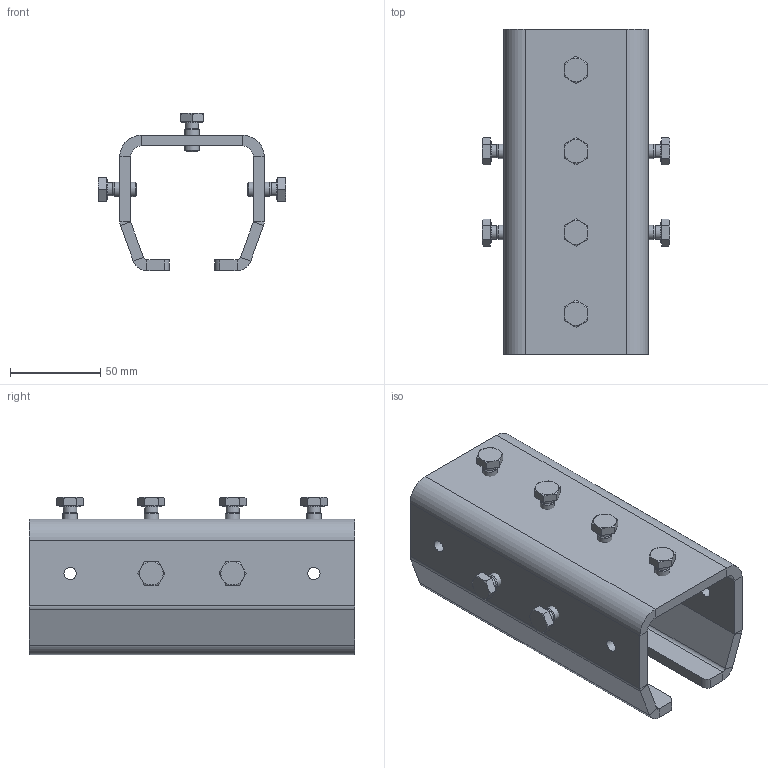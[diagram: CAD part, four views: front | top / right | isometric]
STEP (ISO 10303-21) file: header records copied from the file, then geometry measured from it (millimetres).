
FILE_DESCRIPTION(/* description */ ('Muffe Nr.3_lang '),/* implementation_level */ '2;1');
FILE_NAME(/* name */ 'Q:\sge-ma\Produktmanagement-STB\STB\Workspace\stp\010335130.stp',/* time_stamp */ '2015-03-10T13:19:18+01:00',/* author */ ('avschreier'),/* organization */ (''),/* preprocessor_version */ 'ST-DEVELOPER v15.6',/* originating_system */ 'Autodesk Inventor 2015',/* authorisation */ '');
FILE_SCHEMA (('CONFIG_CONTROL_DESIGN'));
Length unit declared in the file: millimetre
Products named in the file (3): 337000116; DIN_EN_ISO_4017-M8x16_en; 010335130
Bounding box: 104.1 x 180 x 87.05 mm (x, y, z)
Volume: 265893.3 mm3; surface area: 98363.4 mm2
Topology: 9 solids, 9 shells, 238 faces, 500 edges, 296 vertices
Faces by surface type: plane 122, cone 64, cylinder 52
Full cylindrical faces by diameter (mm): 6.647 x8, 6.8 x4, 7.323 x8, 8 x8, 11.4 x8
Entity records: 2504 total; most frequent: DIRECTION 444, CARTESIAN_POINT 421, ORIENTED_EDGE 362, EDGE_CURVE 181, AXIS2_PLACEMENT_3D 172, EDGE_LOOP 134, VERTEX_POINT 113, LINE 100
